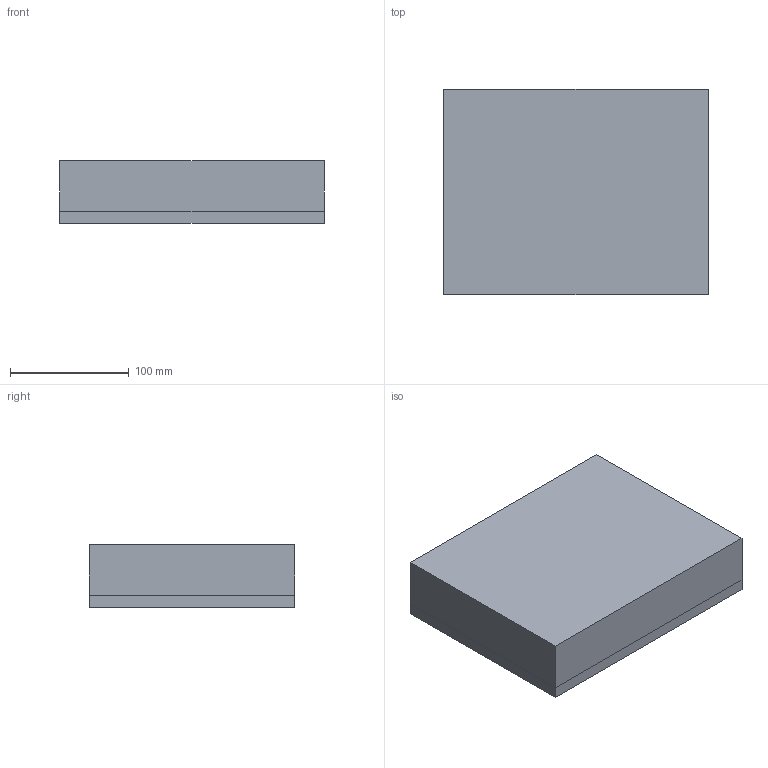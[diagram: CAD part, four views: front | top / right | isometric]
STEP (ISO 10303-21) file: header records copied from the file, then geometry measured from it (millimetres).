
FILE_DESCRIPTION(('CATIA V5 STEP Exchange'),'2;1');
FILE_NAME('C:\_Andres\UNIVERSIDAD\IQS\ASIGNATURAS\DAO\Controles\1920\c2\c2-Xam-mar_Jimenez_Ramon.stp','2020-02-10T15:38:48+00:00',('none'),('none'),'CATIA Version 5 Release 19 SP 3 (IN-10)','CATIA V5 STEP AP203','none');
FILE_SCHEMA(('CONFIG_CONTROL_DESIGN'));
Length unit declared in the file: millimetre
Products named in the file (1): c2-Xam-mar_Jimenez_Ramon
Bounding box: 223 x 173 x 53 mm (x, y, z)
Surface area: 303133.1 mm2
Topology: 3 solids, 3 shells, 103 faces, 232 edges, 128 vertices
Faces by surface type: cylinder 40, plane 27, bspline 24, sphere 12
Entity records: 3352 total; most frequent: CARTESIAN_POINT 1640, ORIENTED_EDGE 440, DIRECTION 224, EDGE_CURVE 164, EDGE_LOOP 110, ADVANCED_FACE 103, FACE_OUTER_BOUND 103, AXIS2_PLACEMENT_3D 96
